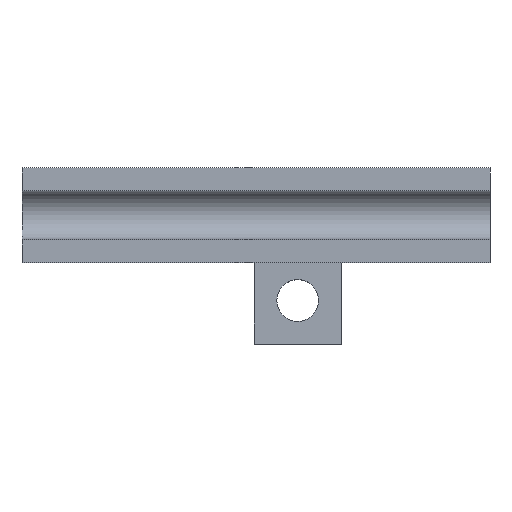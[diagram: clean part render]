
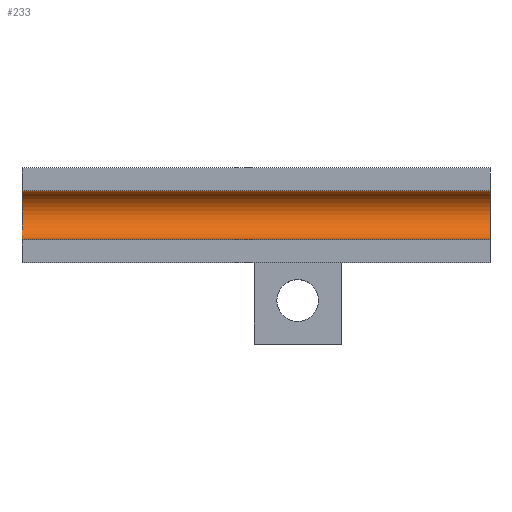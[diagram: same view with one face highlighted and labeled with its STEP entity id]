
A CAD part, top view. The second image highlights one B-rep face of the part: STEP entity #233.
In plain terms, the highlighted cylindrical face has radius 1.3 mm (diameter 2.6 mm), a partial arc.
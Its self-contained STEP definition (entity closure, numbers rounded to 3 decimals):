
#39=FACE_OUTER_BOUND('',#55,.T.);
#55=EDGE_LOOP('',(#211,#212,#213,#214));
#73=LINE('',#381,#95);
#77=LINE('',#390,#99);
#95=VECTOR('',#312,10.);
#99=VECTOR('',#318,10.);
#106=CIRCLE('',#264,1.3);
#108=CIRCLE('',#268,1.3);
#123=VERTEX_POINT('',#378);
#124=VERTEX_POINT('',#380);
#127=VERTEX_POINT('',#387);
#128=VERTEX_POINT('',#389);
#149=EDGE_CURVE('',#123,#124,#73,.T.);
#153=EDGE_CURVE('',#127,#128,#77,.T.);
#156=EDGE_CURVE('',#124,#127,#106,.T.);
#158=EDGE_CURVE('',#128,#123,#108,.T.);
#211=ORIENTED_EDGE('',*,*,#153,.F.);
#212=ORIENTED_EDGE('',*,*,#156,.F.);
#213=ORIENTED_EDGE('',*,*,#149,.F.);
#214=ORIENTED_EDGE('',*,*,#158,.F.);
#221=CYLINDRICAL_SURFACE('',#267,1.3);
#233=ADVANCED_FACE('',(#39),#221,.F.);
#264=AXIS2_PLACEMENT_3D('',#394,#324,#325);
#267=AXIS2_PLACEMENT_3D('',#397,#330,#331);
#268=AXIS2_PLACEMENT_3D('',#398,#332,#333);
#312=DIRECTION('',(-1.,0.,0.));
#318=DIRECTION('',(1.,0.,0.));
#324=DIRECTION('center_axis',(1.,0.,0.));
#325=DIRECTION('ref_axis',(0.,0.,-1.));
#330=DIRECTION('center_axis',(1.,0.,0.));
#331=DIRECTION('ref_axis',(0.,0.,-1.));
#332=DIRECTION('center_axis',(-1.,0.,0.));
#333=DIRECTION('ref_axis',(0.,0.,-1.));
#378=CARTESIAN_POINT('',(-12.5,23.7,-7.8));
#380=CARTESIAN_POINT('',(-37.2,23.7,-7.8));
#381=CARTESIAN_POINT('',(-24.25,23.7,-7.8));
#387=CARTESIAN_POINT('',(-37.2,26.3,-7.8));
#389=CARTESIAN_POINT('',(-12.5,26.3,-7.8));
#390=CARTESIAN_POINT('',(-24.25,26.3,-7.8));
#394=CARTESIAN_POINT('Origin',(-37.2,25.,-7.8));
#397=CARTESIAN_POINT('Origin',(-24.25,25.,-7.8));
#398=CARTESIAN_POINT('Origin',(-12.5,25.,-7.8));
